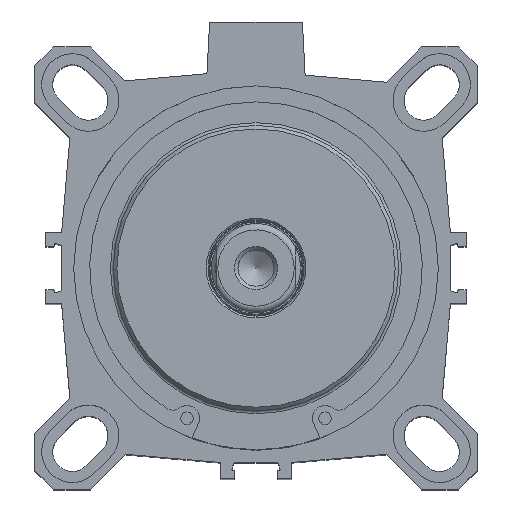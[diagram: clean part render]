
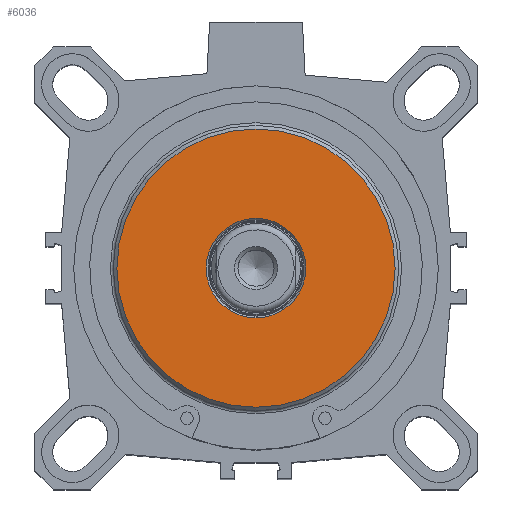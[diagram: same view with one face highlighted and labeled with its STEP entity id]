
A CAD part, top view. The second image highlights one B-rep face of the part: STEP entity #6036.
In plain terms, the highlighted planar face has unit normal (0, 0, 1).
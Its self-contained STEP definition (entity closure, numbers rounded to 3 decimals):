
#198=PLANE('',#6467);
#1860=ORIENTED_EDGE('',*,*,#2527,.F.);
#1861=ORIENTED_EDGE('',*,*,#2528,.T.);
#2527=EDGE_CURVE('',#2954,#2954,#3178,.T.);
#2528=EDGE_CURVE('',#2955,#2955,#3179,.T.);
#2954=VERTEX_POINT('',#9068);
#2955=VERTEX_POINT('',#9071);
#3178=CIRCLE('',#6466,13.95);
#3179=CIRCLE('',#6468,39.);
#3497=EDGE_LOOP('',(#1860));
#3498=EDGE_LOOP('',(#1861));
#3852=FACE_BOUND('',#3497,.T.);
#3853=FACE_BOUND('',#3498,.T.);
#6036=ADVANCED_FACE('',(#3852,#3853),#198,.T.);
#6466=AXIS2_PLACEMENT_3D('',#9067,#7610,#7611);
#6467=AXIS2_PLACEMENT_3D('',#9069,#7612,#7613);
#6468=AXIS2_PLACEMENT_3D('',#9070,#7614,#7615);
#7610=DIRECTION('',(0.,0.,1.));
#7611=DIRECTION('',(0.,-1.,0.));
#7612=DIRECTION('',(0.,0.,1.));
#7613=DIRECTION('',(1.,0.,0.));
#7614=DIRECTION('',(0.,0.,1.));
#7615=DIRECTION('',(0.,-1.,0.));
#9067=CARTESIAN_POINT('',(0.,0.,105.05));
#9068=CARTESIAN_POINT('',(0.,-13.95,105.05));
#9069=CARTESIAN_POINT('',(0.,-26.475,105.05));
#9070=CARTESIAN_POINT('',(0.,0.,105.05));
#9071=CARTESIAN_POINT('',(0.,-39.,105.05));
